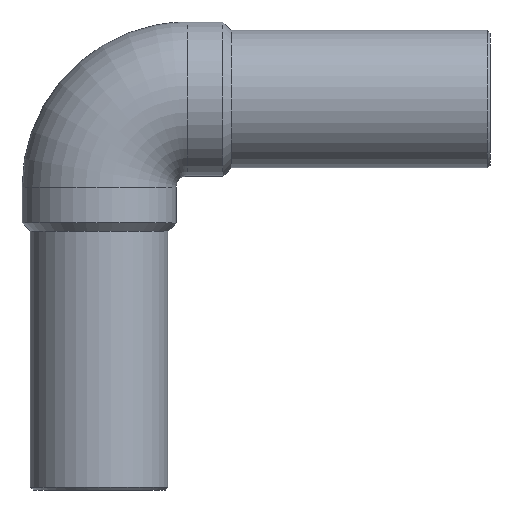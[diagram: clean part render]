
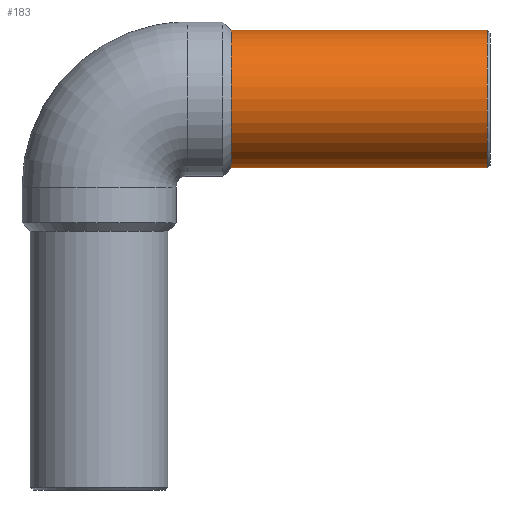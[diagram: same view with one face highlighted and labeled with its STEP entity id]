
A CAD part, front view. The second image highlights one B-rep face of the part: STEP entity #183.
In plain terms, the highlighted cylindrical face has radius 12.5 mm (diameter 25 mm), a full revolution.
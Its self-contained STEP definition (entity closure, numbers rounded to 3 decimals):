
#29=CYLINDRICAL_SURFACE('',#212,12.5);
#37=ORIENTED_EDGE('',*,*,#75,.F.);
#38=ORIENTED_EDGE('',*,*,#74,.F.);
#74=EDGE_CURVE('',#93,#93,#111,.T.);
#75=EDGE_CURVE('',#94,#94,#112,.F.);
#93=VERTEX_POINT('',#303);
#94=VERTEX_POINT('',#306);
#111=CIRCLE('',#211,12.5);
#112=CIRCLE('',#213,12.5);
#126=EDGE_LOOP('',(#37));
#127=EDGE_LOOP('',(#38));
#153=FACE_BOUND('',#126,.T.);
#154=FACE_BOUND('',#127,.T.);
#183=ADVANCED_FACE('',(#153,#154),#29,.T.);
#211=AXIS2_PLACEMENT_3D('',#302,#244,#245);
#212=AXIS2_PLACEMENT_3D('',#304,#246,#247);
#213=AXIS2_PLACEMENT_3D('',#305,#248,#249);
#244=DIRECTION('',(-1.,0.,0.));
#245=DIRECTION('',(0.,0.,1.));
#246=DIRECTION('',(1.,0.,0.));
#247=DIRECTION('',(0.,0.,1.));
#248=DIRECTION('',(-1.,0.,0.));
#249=DIRECTION('',(0.,0.,1.));
#302=CARTESIAN_POINT('',(24.,0.,71.));
#303=CARTESIAN_POINT('',(24.,0.,83.5));
#304=CARTESIAN_POINT('',(71.,0.,71.));
#305=CARTESIAN_POINT('',(70.5,0.,71.));
#306=CARTESIAN_POINT('',(70.5,0.,83.5));
